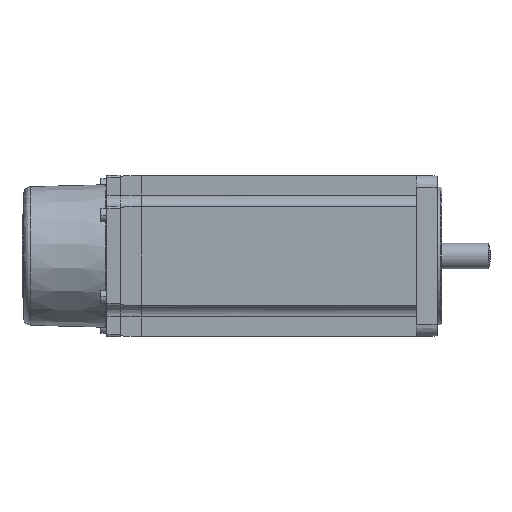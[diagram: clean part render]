
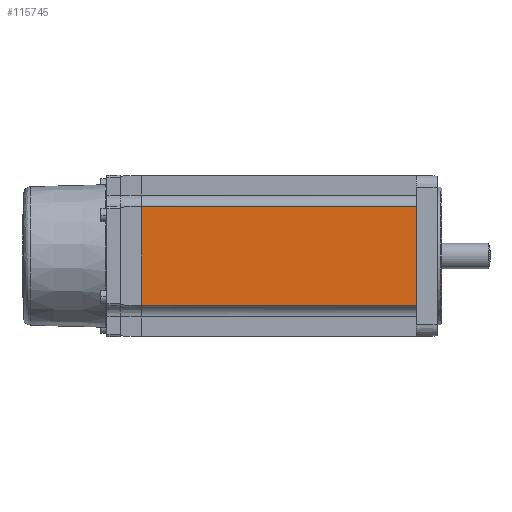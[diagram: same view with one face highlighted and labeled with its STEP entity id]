
A CAD part, front view. The second image highlights one B-rep face of the part: STEP entity #115745.
In plain terms, the highlighted planar face has unit normal (0, -1, 0) as drawn and (0, 1, 0) by its records, which use the part's own axes.
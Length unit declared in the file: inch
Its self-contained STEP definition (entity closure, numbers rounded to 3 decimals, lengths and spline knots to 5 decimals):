
#3744 = DIRECTION ( 'NONE',  ( 0., 0., -1. ) ) ;
#8223 = EDGE_LOOP ( 'NONE', ( #108973, #82008, #137960, #25826 ) ) ;
#8243 = PLANE ( 'NONE',  #28777 ) ;
#14978 = DIRECTION ( 'NONE',  ( 1., 0., 0. ) ) ;
#21794 = VERTEX_POINT ( 'NONE', #25657 ) ;
#25657 = CARTESIAN_POINT ( 'NONE',  ( -0.84711, 1.37795, 3.44882 ) ) ;
#25826 = ORIENTED_EDGE ( 'NONE', *, *, #61954, .T. ) ;
#28777 = AXIS2_PLACEMENT_3D ( 'NONE', #98475, #111482, #34205 ) ;
#30262 = EDGE_CURVE ( 'NONE', #21794, #145841, #131238, .T. ) ;
#34205 = DIRECTION ( 'NONE',  ( 0., 0., 1. ) ) ;
#34504 = EDGE_CURVE ( 'NONE', #145841, #148079, #35014, .T. ) ;
#35014 = LINE ( 'NONE', #104634, #133901 ) ;
#39132 = EDGE_CURVE ( 'NONE', #148079, #153238, #151958, .T. ) ;
#42089 = CARTESIAN_POINT ( 'NONE',  ( -0.84711, 1.37795, 4.6063 ) ) ;
#47707 = VECTOR ( 'NONE', #84136, 39.37008 ) ;
#52993 = VECTOR ( 'NONE', #161768, 39.37008 ) ;
#61954 = EDGE_CURVE ( 'NONE', #21794, #153238, #150676, .T. ) ;
#82008 = ORIENTED_EDGE ( 'NONE', *, *, #34504, .F. ) ;
#84136 = DIRECTION ( 'NONE',  ( 1., 0., 0. ) ) ;
#96516 = CARTESIAN_POINT ( 'NONE',  ( 0.84711, 1.37795, -1.25984 ) ) ;
#97106 = CARTESIAN_POINT ( 'NONE',  ( -1.37795, 1.37795, 3.44882 ) ) ;
#98475 = CARTESIAN_POINT ( 'NONE',  ( -1.37795, 1.37795, 3.44882 ) ) ;
#104634 = CARTESIAN_POINT ( 'NONE',  ( -1.37795, 1.37795, -1.25984 ) ) ;
#108973 = ORIENTED_EDGE ( 'NONE', *, *, #39132, .F. ) ;
#111482 = DIRECTION ( 'NONE',  ( 0., 1., 0. ) ) ;
#115745 = ADVANCED_FACE ( 'NONE', ( #162992 ), #8243, .T. ) ;
#127208 = VECTOR ( 'NONE', #3744, 39.37008 ) ;
#131238 = LINE ( 'NONE', #42089, #127208 ) ;
#133901 = VECTOR ( 'NONE', #14978, 39.37008 ) ;
#136524 = CARTESIAN_POINT ( 'NONE',  ( -0.84711, 1.37795, -1.25984 ) ) ;
#137960 = ORIENTED_EDGE ( 'NONE', *, *, #30262, .F. ) ;
#145841 = VERTEX_POINT ( 'NONE', #136524 ) ;
#148079 = VERTEX_POINT ( 'NONE', #96516 ) ;
#148769 = CARTESIAN_POINT ( 'NONE',  ( 0.84711, 1.37795, -1.25984 ) ) ;
#150676 = LINE ( 'NONE', #97106, #47707 ) ;
#151958 = LINE ( 'NONE', #148769, #52993 ) ;
#153238 = VERTEX_POINT ( 'NONE', #160058 ) ;
#160058 = CARTESIAN_POINT ( 'NONE',  ( 0.84711, 1.37795, 3.44882 ) ) ;
#161768 = DIRECTION ( 'NONE',  ( 0., 0., 1. ) ) ;
#162992 = FACE_OUTER_BOUND ( 'NONE', #8223, .T. ) ;
